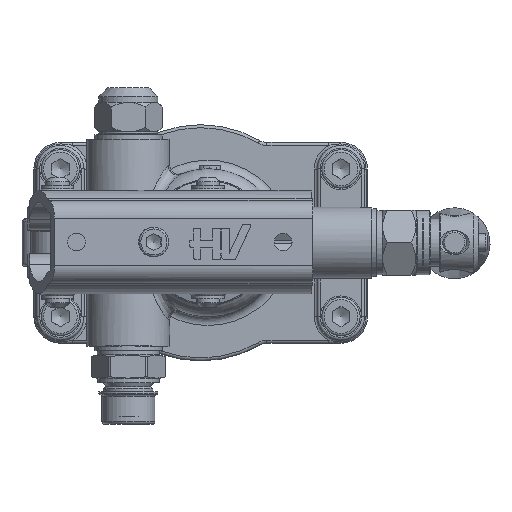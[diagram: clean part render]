
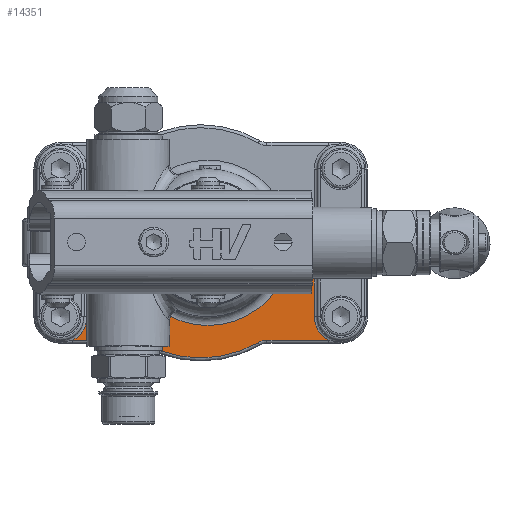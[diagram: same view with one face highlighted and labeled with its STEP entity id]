
A CAD part, top view. The second image highlights one B-rep face of the part: STEP entity #14351.
In plain terms, the highlighted planar face has unit normal (0, 0, 1).
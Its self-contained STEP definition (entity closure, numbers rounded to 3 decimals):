
#13631=CARTESIAN_POINT('',(23.,23.,6.));
#13632=VERTEX_POINT('',#13631);
#13657=CARTESIAN_POINT('',(23.,17.,6.));
#13658=VERTEX_POINT('',#13657);
#13659=CARTESIAN_POINT('',(23.,23.,6.));
#13660=DIRECTION('',(0.0,-1.0,0.0));
#13661=VECTOR('',#13660,6.);
#13662=LINE('',#13659,#13661);
#13663=EDGE_CURVE('',#13632,#13658,#13662,.T.);
#13695=CARTESIAN_POINT('',(84.957,23.5,6.));
#13696=VERTEX_POINT('',#13695);
#13704=CARTESIAN_POINT('',(95.,23.5,6.));
#13705=VERTEX_POINT('',#13704);
#13706=CARTESIAN_POINT('',(84.957,23.5,6.));
#13707=DIRECTION('',(1.0,0.0,0.0));
#13708=VECTOR('',#13707,10.043);
#13709=LINE('',#13706,#13708);
#13710=EDGE_CURVE('',#13696,#13705,#13709,.T.);
#13728=CARTESIAN_POINT('',(40.187,13.262,6.));
#13729=VERTEX_POINT('',#13728);
#13730=CARTESIAN_POINT('',(32.,17.,6.));
#13731=DIRECTION('',(0.0,0.0,1.0));
#13732=DIRECTION('',(-0.91,0.415,0.0));
#13733=AXIS2_PLACEMENT_3D('',#13730,#13731,#13732);
#13734=CIRCLE('',#13733,9.0);
#13735=EDGE_CURVE('',#13658,#13729,#13734,.T.);
#13788=CARTESIAN_POINT('',(59.,34.0,6.));
#13789=DIRECTION('',(0.0,0.0,1.0));
#13790=DIRECTION('',(0.231,0.973,0.0));
#13791=AXIS2_PLACEMENT_3D('',#13788,#13789,#13790);
#13792=CIRCLE('',#13791,28.);
#13793=EDGE_CURVE('',#13729,#13696,#13792,.T.);
#14017=CARTESIAN_POINT('',(18.,23.,6.));
#14018=VERTEX_POINT('',#14017);
#14026=CARTESIAN_POINT('',(18.,23.,6.));
#14027=DIRECTION('',(1.0,0.0,0.0));
#14028=VECTOR('',#14027,5.);
#14029=LINE('',#14026,#14028);
#14030=EDGE_CURVE('',#14018,#13632,#14029,.T.);
#14225=CARTESIAN_POINT('',(18.,9.,6.));
#14226=VERTEX_POINT('',#14225);
#14234=CARTESIAN_POINT('',(18.0,9.0,6.));
#14235=DIRECTION('',(0.0,1.0,0.0));
#14236=VECTOR('',#14235,14.);
#14237=LINE('',#14234,#14236);
#14238=EDGE_CURVE('',#14226,#14018,#14237,.T.);
#14248=CARTESIAN_POINT('',(13.123,1.,6.));
#14249=VERTEX_POINT('',#14248);
#14259=CARTESIAN_POINT('',(9.,9.0,6.));
#14260=DIRECTION('',(0.0,0.0,1.0));
#14261=DIRECTION('',(0.0,-1.0,0.0));
#14262=AXIS2_PLACEMENT_3D('',#14259,#14260,#14261);
#14263=CIRCLE('',#14262,9.0);
#14264=EDGE_CURVE('',#14249,#14226,#14263,.T.);
#14279=CARTESIAN_POINT('',(56.5,34.,6.));
#14280=DIRECTION('',(0.0,0.0,1.0));
#14281=DIRECTION('',(1.0,0.0,0.0));
#14282=AXIS2_PLACEMENT_3D('',#14279,#14280,#14281);
#14283=PLANE('',#14282);
#14284=CARTESIAN_POINT('',(99.877,1.,6.));
#14285=VERTEX_POINT('',#14284);
#14286=CARTESIAN_POINT('',(78.95,1.0,6.));
#14287=VERTEX_POINT('',#14286);
#14288=CARTESIAN_POINT('',(99.877,1.,6.));
#14289=DIRECTION('',(-1.0,0.0,0.0));
#14290=VECTOR('',#14289,20.927);
#14291=LINE('',#14288,#14290);
#14292=EDGE_CURVE('',#14285,#14287,#14291,.T.);
#14293=ORIENTED_EDGE('',*,*,#14292,.F.);
#14294=CARTESIAN_POINT('',(95.0,9.0,6.));
#14295=VERTEX_POINT('',#14294);
#14296=CARTESIAN_POINT('',(104.0,9.,6.));
#14297=DIRECTION('',(0.0,0.0,1.0));
#14298=DIRECTION('',(0.0,-1.0,0.0));
#14299=AXIS2_PLACEMENT_3D('',#14296,#14297,#14298);
#14300=CIRCLE('',#14299,9.0);
#14301=EDGE_CURVE('',#14295,#14285,#14300,.T.);
#14302=ORIENTED_EDGE('',*,*,#14301,.F.);
#14303=CARTESIAN_POINT('',(95.,23.5,6.));
#14304=DIRECTION('',(0.0,-1.0,0.0));
#14305=VECTOR('',#14304,14.5);
#14306=LINE('',#14303,#14305);
#14307=EDGE_CURVE('',#13705,#14295,#14306,.T.);
#14308=ORIENTED_EDGE('',*,*,#14307,.F.);
#14309=ORIENTED_EDGE('',*,*,#13710,.F.);
#14310=ORIENTED_EDGE('',*,*,#13793,.F.);
#14311=ORIENTED_EDGE('',*,*,#13735,.F.);
#14312=ORIENTED_EDGE('',*,*,#13663,.F.);
#14313=ORIENTED_EDGE('',*,*,#14030,.F.);
#14314=ORIENTED_EDGE('',*,*,#14238,.F.);
#14315=ORIENTED_EDGE('',*,*,#14264,.F.);
#14316=CARTESIAN_POINT('',(34.05,1.,6.));
#14317=VERTEX_POINT('',#14316);
#14318=CARTESIAN_POINT('',(34.05,1.,6.));
#14319=DIRECTION('',(-1.0,0.0,0.0));
#14320=VECTOR('',#14319,20.927);
#14321=LINE('',#14318,#14320);
#14322=EDGE_CURVE('',#14317,#14249,#14321,.T.);
#14323=ORIENTED_EDGE('',*,*,#14322,.F.);
#14324=CARTESIAN_POINT('',(37.043,0.2,6.));
#14325=VERTEX_POINT('',#14324);
#14326=CARTESIAN_POINT('',(34.05,-5.0,6.));
#14327=DIRECTION('',(0.0,0.0,1.0));
#14328=DIRECTION('',(0.258,0.966,0.0));
#14329=AXIS2_PLACEMENT_3D('',#14326,#14327,#14328);
#14330=CIRCLE('',#14329,6.0);
#14331=EDGE_CURVE('',#14325,#14317,#14330,.T.);
#14332=ORIENTED_EDGE('',*,*,#14331,.F.);
#14333=CARTESIAN_POINT('',(75.957,0.2,6.));
#14334=VERTEX_POINT('',#14333);
#14335=CARTESIAN_POINT('',(56.5,34.0,6.));
#14336=DIRECTION('',(0.0,0.0,-1.0));
#14337=DIRECTION('',(0.0,-1.0,0.0));
#14338=AXIS2_PLACEMENT_3D('',#14335,#14336,#14337);
#14339=CIRCLE('',#14338,39.0);
#14340=EDGE_CURVE('',#14334,#14325,#14339,.T.);
#14341=ORIENTED_EDGE('',*,*,#14340,.F.);
#14342=CARTESIAN_POINT('',(78.95,-5.0,6.));
#14343=DIRECTION('',(0.0,0.0,1.0));
#14344=DIRECTION('',(-0.258,0.966,0.0));
#14345=AXIS2_PLACEMENT_3D('',#14342,#14343,#14344);
#14346=CIRCLE('',#14345,6.);
#14347=EDGE_CURVE('',#14287,#14334,#14346,.T.);
#14348=ORIENTED_EDGE('',*,*,#14347,.F.);
#14349=EDGE_LOOP('',(#14293,#14302,#14308,#14309,#14310,#14311,#14312,#14313,#14314,#14315,#14323,#14332,#14341,#14348));
#14350=FACE_OUTER_BOUND('',#14349,.T.);
#14351=ADVANCED_FACE('',(#14350),#14283,.T.);
